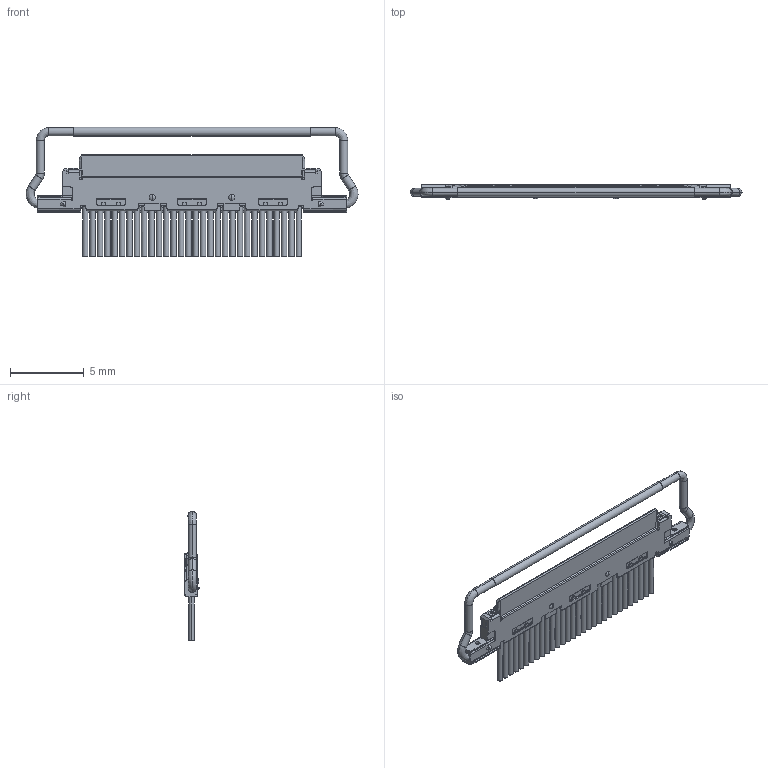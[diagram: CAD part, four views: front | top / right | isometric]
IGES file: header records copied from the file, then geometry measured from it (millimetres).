
Start section: SolidWorks IGES file using analytic representation for surfaces
Global section: file name: C:\3dwork\CAB-VS\20453-030T-x3C PLUG CABLE ASS'Y IGES R8R0R0 ALL.IGS; native system: SolidWorks 2011; preprocessor: SolidWorks 2011; author: kaihatsu-3dcad-2; date: 120124.141259; units: millimetre
Bounding box: 22.55 x 1 x 8.79 mm (x, y, z)
Surface area: 409 mm2 (no closed solid volume)
Topology: 0 solids, 0 shells, 1604 faces, 11662 edges, 11654 vertices
Faces by surface type: bspline 1091, revolution 513
